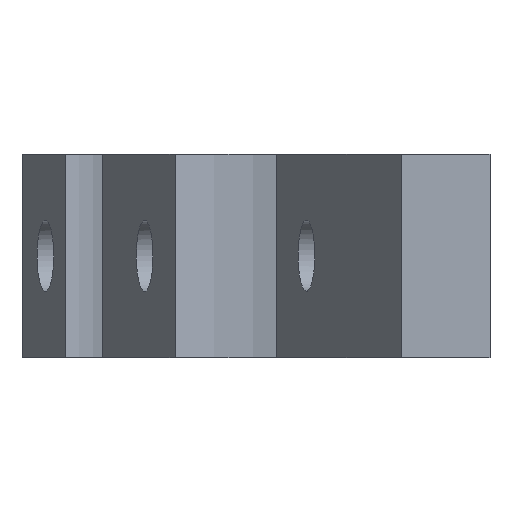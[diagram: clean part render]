
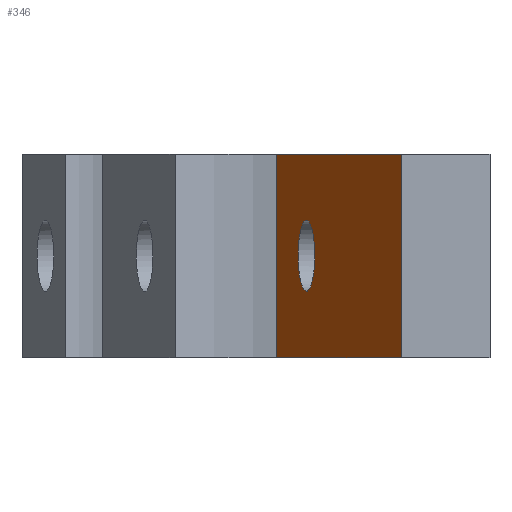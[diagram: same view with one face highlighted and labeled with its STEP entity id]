
A CAD part, front view. The second image highlights one B-rep face of the part: STEP entity #346.
In plain terms, the highlighted planar face has unit normal (-0.974, -0.227, 0) as drawn and (-0.974, 0, 0.227) by its records, which use the part's own axes.
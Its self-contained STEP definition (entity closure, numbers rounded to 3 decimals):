
#22=FACE_BOUND('',#74,.T.);
#32=PLANE('',#395);
#50=FACE_OUTER_BOUND('',#73,.T.);
#73=EDGE_LOOP('',(#277,#278,#279,#280));
#74=EDGE_LOOP('',(#281));
#112=LINE('',#574,#141);
#113=LINE('',#577,#142);
#114=LINE('',#579,#143);
#115=LINE('',#580,#144);
#141=VECTOR('',#472,10.);
#142=VECTOR('',#475,10.);
#143=VECTOR('',#476,10.);
#144=VECTOR('',#477,10.);
#162=ELLIPSE('',#391,1.797,1.75);
#174=VERTEX_POINT('',#553);
#175=VERTEX_POINT('',#557);
#183=VERTEX_POINT('',#572);
#184=VERTEX_POINT('',#576);
#185=VERTEX_POINT('',#578);
#210=EDGE_CURVE('',#174,#174,#162,.T.);
#219=EDGE_CURVE('',#183,#175,#112,.T.);
#220=EDGE_CURVE('',#184,#175,#113,.T.);
#221=EDGE_CURVE('',#185,#183,#114,.T.);
#222=EDGE_CURVE('',#185,#184,#115,.T.);
#277=ORIENTED_EDGE('',*,*,#220,.T.);
#278=ORIENTED_EDGE('',*,*,#219,.F.);
#279=ORIENTED_EDGE('',*,*,#221,.F.);
#280=ORIENTED_EDGE('',*,*,#222,.T.);
#281=ORIENTED_EDGE('',*,*,#210,.T.);
#346=ADVANCED_FACE('',(#50,#22),#32,.T.);
#391=AXIS2_PLACEMENT_3D('',#555,#458,#459);
#395=AXIS2_PLACEMENT_3D('',#575,#473,#474);
#458=DIRECTION('center_axis',(0.974,0.,-0.227));
#459=DIRECTION('ref_axis',(-0.227,0.,-0.974));
#472=DIRECTION('',(-0.227,0.,-0.974));
#473=DIRECTION('center_axis',(-0.974,0.,0.227));
#474=DIRECTION('ref_axis',(-0.227,0.,-0.974));
#475=DIRECTION('',(0.,-1.,0.));
#476=DIRECTION('',(0.,-1.,0.));
#477=DIRECTION('',(-0.227,0.,-0.974));
#553=CARTESIAN_POINT('',(-288.625,275.,-8.25));
#555=CARTESIAN_POINT('Origin',(-289.033,275.,-10.));
#557=CARTESIAN_POINT('',(-290.5,269.982,-16.288));
#572=CARTESIAN_POINT('',(-284.367,269.982,10.));
#574=CARTESIAN_POINT('',(-293.,269.982,-27.));
#575=CARTESIAN_POINT('Origin',(-289.033,289.982,-10.));
#576=CARTESIAN_POINT('',(-290.5,279.982,-16.288));
#577=CARTESIAN_POINT('',(-290.5,278.382,-16.288));
#578=CARTESIAN_POINT('',(-284.367,279.982,10.));
#579=CARTESIAN_POINT('',(-284.367,289.982,10.));
#580=CARTESIAN_POINT('',(-289.575,279.982,-12.32));
